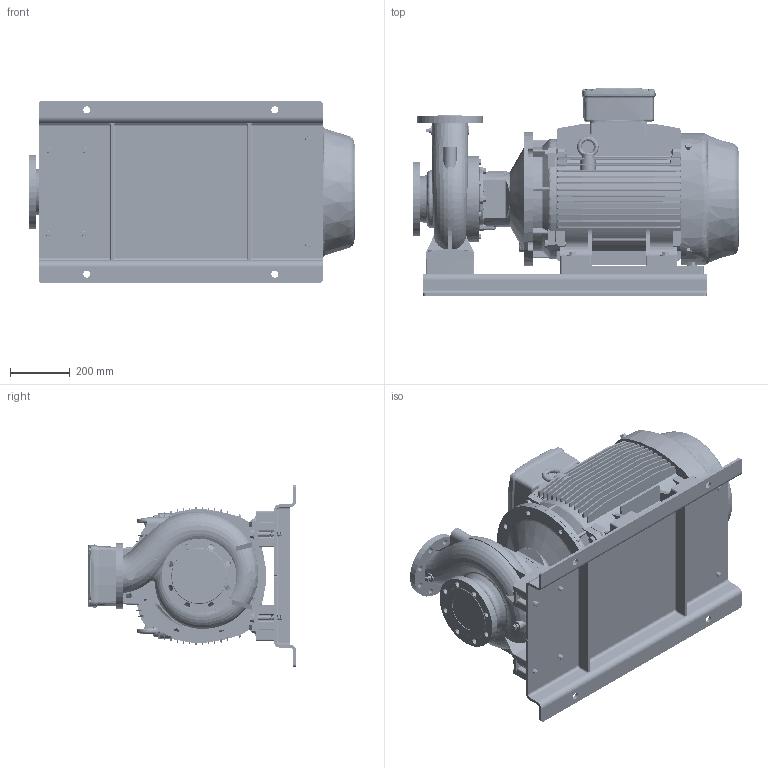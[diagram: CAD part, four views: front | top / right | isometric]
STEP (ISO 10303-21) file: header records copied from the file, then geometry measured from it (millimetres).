
FILE_DESCRIPTION (( 'STEP AP214' ), '1' );
FILE_NAME ('GSD2 100-200_45_(225SM)_W21_BP.STEP', '2024-08-02T01:44:14', ( '' ), ( '' ), 'SwSTEP 2.0', 'SolidWorks 2019', '' );
FILE_SCHEMA (( 'AUTOMOTIVE_DESIGN' ));
Length unit declared in the file: millimetre
Products named in the file (19): Parametric bolt and washer_SFT-A377B; Parametric bolt and washer_SFT-A359B; Parametric bolt_SFT-A377B; 100-200-225S_M_______; 80x25 -CGSDA-5281 (225) (Offset); Parametric Flat Washer_M16; 225S_M2P IE3_W21T_B35; N7S3 GSDA-73B F1-1832954-00; CGS11-5321_2_3_4_5_CGS11-5322; Parametric bolt_SFT-A359B; GSD2  100-200_45_(225SM)_W21_BP
Assembly tree (39 placements, depth 3):
  GSD2  100-200_45_(225SM)_W21_BP
    100-200-225S_M_______
    225S_M2P IE3_W21T_B35
    N7S3 GSDA-73B F1-1832954-00
    CGS11-5321_2_3_4_5_CGS11-5322  x4
    Parametric bolt and washer_SFT-A377B
      Parametric bolt_SFT-A377B
      Parametric Flat Washer_M16
    Parametric bolt and washer_SFT-A377B
      Parametric bolt_SFT-A377B
      Parametric Flat Washer_M16
    Parametric bolt and washer_SFT-A377B
      Parametric bolt_SFT-A377B
      Parametric Flat Washer_M16
    Parametric bolt and washer_SFT-A377B
      Parametric bolt_SFT-A377B
      Parametric Flat Washer_M16
    Parametric bolt and washer_SFT-A359B
      Parametric bolt_SFT-A359B
      Parametric Flat Washer_M16
    Parametric bolt and washer_SFT-A359B
      Parametric bolt_SFT-A359B
      Parametric Flat Washer_M16
    Parametric bolt and washer_SFT-A359B
      Parametric bolt_SFT-A359B
      Parametric Flat Washer_M16
    Parametric bolt and washer_SFT-A359B
      Parametric bolt_SFT-A359B
      Parametric Flat Washer_M16
    Parametric bolt and washer_SFT-A359B
      Parametric bolt_SFT-A359B
      Parametric Flat Washer_M16
    Parametric bolt and washer_SFT-A359B
      Parametric bolt_SFT-A359B
      Parametric Flat Washer_M16
    80x25 -CGSDA-5281 (225) (Offset)  x2
Bounding box: 1094.5 x 698 x 610 mm (x, y, z)
Volume: 136206096.5 mm3; surface area: 6009676.9 mm2
Topology: 31 solids, 36 shells, 4100 faces, 10842 edges, 6929 vertices
Faces by surface type: plane 1699, cylinder 1389, cone 456, torus 273, bspline 268, sphere 15
Entity records: 165004 total; most frequent: CARTESIAN_POINT 79659, ORIENTED_EDGE 18546, DIRECTION 17049, EDGE_CURVE 9273, AXIS2_PLACEMENT_3D 6241, VERTEX_POINT 5911, LINE 4567, VECTOR 4567
